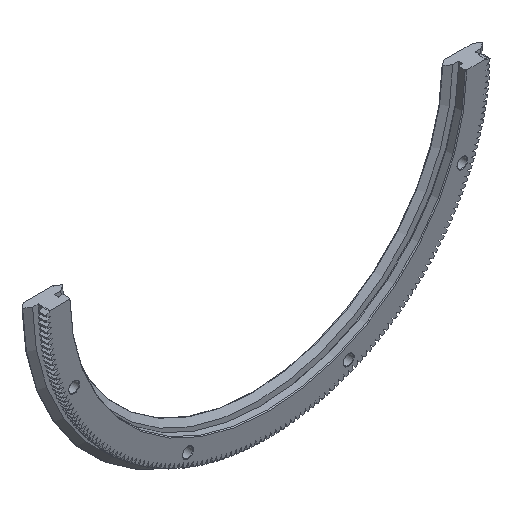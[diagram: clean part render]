
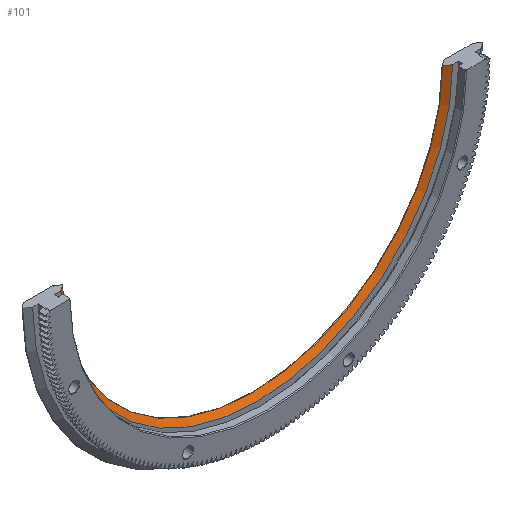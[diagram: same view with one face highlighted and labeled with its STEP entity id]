
A CAD part, isometric view. The second image highlights one B-rep face of the part: STEP entity #101.
In plain terms, the highlighted conical face has half-angle 55 degrees and reference radius 95.026 mm.
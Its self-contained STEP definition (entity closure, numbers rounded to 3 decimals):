
#101 = ADVANCED_FACE( '', ( #997 ), #998, .F. );
#997 = FACE_OUTER_BOUND( '', #2742, .T. );
#998 = CONICAL_SURFACE( '', #2743, 95.026, 0.96 );
#2742 = EDGE_LOOP( '', ( #4909, #4910, #4911, #4912 ) );
#2743 = AXIS2_PLACEMENT_3D( '', #4913, #4914, #4915 );
#4909 = ORIENTED_EDGE( '', *, *, #11907, .T. );
#4910 = ORIENTED_EDGE( '', *, *, #11892, .T. );
#4911 = ORIENTED_EDGE( '', *, *, #11908, .F. );
#4912 = ORIENTED_EDGE( '', *, *, #11564, .T. );
#4913 = CARTESIAN_POINT( '', ( 0., 7.853, 0. ) );
#4914 = DIRECTION( '', ( 0., -1., 0. ) );
#4915 = DIRECTION( '', ( 0., 0., -1. ) );
#11564 = EDGE_CURVE( '', #13852, #13850, #13853, .T. );
#11892 = EDGE_CURVE( '', #14492, #14490, #14493, .T. );
#11907 = EDGE_CURVE( '', #13850, #14492, #14517, .T. );
#11908 = EDGE_CURVE( '', #13852, #14490, #14518, .T. );
#13850 = VERTEX_POINT( '', #17568 );
#13852 = VERTEX_POINT( '', #17571 );
#13853 = B_SPLINE_CURVE_WITH_KNOTS( '', 3, ( #17572, #17573, #17574, #17575 ), .UNSPECIFIED., .F., .F., ( 4, 4 ), ( 0.377, 0.38 ), .UNSPECIFIED. );
#14490 = VERTEX_POINT( '', #18273 );
#14492 = VERTEX_POINT( '', #18280 );
#14493 = B_SPLINE_CURVE_WITH_KNOTS( '', 3, ( #18281, #18282, #18283, #18284 ), .UNSPECIFIED., .F., .F., ( 4, 4 ), ( 0.144, 0.147 ), .UNSPECIFIED. );
#14517 = CIRCLE( '', #18316, 97.957 );
#14518 = CIRCLE( '', #18317, 95.026 );
#17568 = CARTESIAN_POINT( '', ( -97.952, 5.8, -1. ) );
#17571 = CARTESIAN_POINT( '', ( -95.02, 7.853, -1. ) );
#17572 = CARTESIAN_POINT( '', ( -95.02, 7.853, -1. ) );
#17573 = CARTESIAN_POINT( '', ( -95.997, 7.168, -1. ) );
#17574 = CARTESIAN_POINT( '', ( -96.975, 6.484, -1. ) );
#17575 = CARTESIAN_POINT( '', ( -97.952, 5.8, -1. ) );
#18273 = CARTESIAN_POINT( '', ( 95.02, 7.853, -1. ) );
#18280 = CARTESIAN_POINT( '', ( 97.952, 5.8, -1. ) );
#18281 = CARTESIAN_POINT( '', ( 97.952, 5.8, -1. ) );
#18282 = CARTESIAN_POINT( '', ( 96.975, 6.484, -1. ) );
#18283 = CARTESIAN_POINT( '', ( 95.997, 7.168, -1. ) );
#18284 = CARTESIAN_POINT( '', ( 95.02, 7.853, -1. ) );
#18316 = AXIS2_PLACEMENT_3D( '', #24297, #24298, #24299 );
#18317 = AXIS2_PLACEMENT_3D( '', #24300, #24301, #24302 );
#24297 = CARTESIAN_POINT( '', ( 0., 5.8, 0. ) );
#24298 = DIRECTION( '', ( 0., -1., 0. ) );
#24299 = DIRECTION( '', ( 0., 0., -1. ) );
#24300 = CARTESIAN_POINT( '', ( 0., 7.853, 0. ) );
#24301 = DIRECTION( '', ( 0., -1., 0. ) );
#24302 = DIRECTION( '', ( 0., 0., -1. ) );
